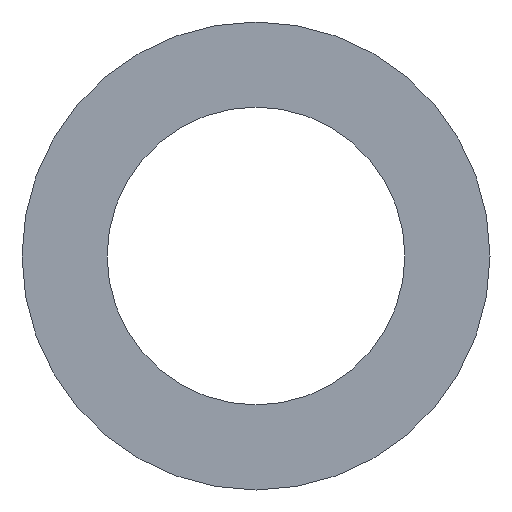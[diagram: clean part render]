
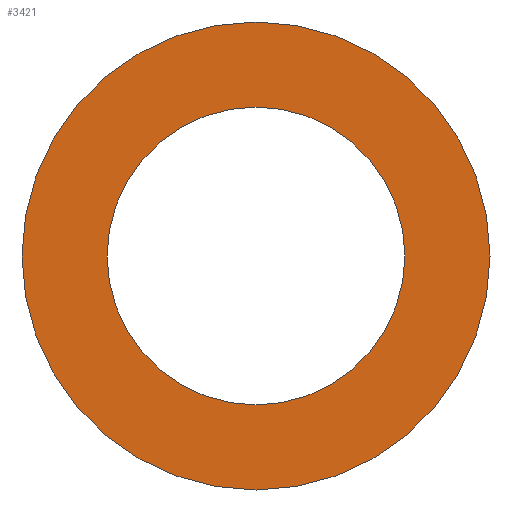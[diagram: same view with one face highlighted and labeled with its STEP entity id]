
A CAD part, front view. The second image highlights one B-rep face of the part: STEP entity #3421.
In plain terms, the highlighted planar face has unit normal (0, -1, 0).
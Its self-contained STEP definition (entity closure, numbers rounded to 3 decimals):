
#21 = CARTESIAN_POINT ( 'NONE',  ( 0., -20., -55. ) ) ;
#29 = CARTESIAN_POINT ( 'NONE',  ( 0., -20., -35. ) ) ;
#39 = AXIS2_PLACEMENT_3D ( 'NONE', #2443, #2428, #3003 ) ;
#129 = AXIS2_PLACEMENT_3D ( 'NONE', #3361, #217, #2225 ) ;
#150 = AXIS2_PLACEMENT_3D ( 'NONE', #518, #3092, #3657 ) ;
#217 = DIRECTION ( 'NONE',  ( 0., -1., 0. ) ) ;
#259 = DIRECTION ( 'NONE',  ( 0., 1., 0. ) ) ;
#269 = CARTESIAN_POINT ( 'NONE',  ( 0., -20., 35. ) ) ;
#293 = DIRECTION ( 'NONE',  ( 0., -1., 0. ) ) ;
#468 = EDGE_CURVE ( 'NONE', #1186, #2221, #3610, .T. ) ;
#518 = CARTESIAN_POINT ( 'NONE',  ( 0., -20., 0. ) ) ;
#573 = DIRECTION ( 'NONE',  ( 0., 0., -1. ) ) ;
#574 = CARTESIAN_POINT ( 'NONE',  ( 0., -20., 35. ) ) ;
#604 = CARTESIAN_POINT ( 'NONE',  ( 0., -20., 0. ) ) ;
#685 = AXIS2_PLACEMENT_3D ( 'NONE', #604, #293, #573 ) ;
#899 = ORIENTED_EDGE ( 'NONE', *, *, #2725, .T. ) ;
#933 = AXIS2_PLACEMENT_3D ( 'NONE', #574, #259, #2866 ) ;
#1168 = EDGE_LOOP ( 'NONE', ( #1799, #3298 ) ) ;
#1186 = VERTEX_POINT ( 'NONE', #21 ) ;
#1483 = EDGE_LOOP ( 'NONE', ( #3597, #899 ) ) ;
#1606 = EDGE_CURVE ( 'NONE', #3039, #2403, #2039, .T. ) ;
#1698 = FACE_BOUND ( 'NONE', #1168, .T. ) ;
#1799 = ORIENTED_EDGE ( 'NONE', *, *, #1606, .F. ) ;
#1936 = CIRCLE ( 'NONE', #129, 55. ) ;
#2035 = PLANE ( 'NONE',  #933 ) ;
#2039 = CIRCLE ( 'NONE', #150, 35. ) ;
#2062 = EDGE_CURVE ( 'NONE', #2403, #3039, #3419, .T. ) ;
#2086 = CARTESIAN_POINT ( 'NONE',  ( 0., -20., 55. ) ) ;
#2221 = VERTEX_POINT ( 'NONE', #2086 ) ;
#2225 = DIRECTION ( 'NONE',  ( 0., 0., -1. ) ) ;
#2403 = VERTEX_POINT ( 'NONE', #269 ) ;
#2428 = DIRECTION ( 'NONE',  ( 0., -1., 0. ) ) ;
#2443 = CARTESIAN_POINT ( 'NONE',  ( 0., -20., 0. ) ) ;
#2725 = EDGE_CURVE ( 'NONE', #2221, #1186, #1936, .T. ) ;
#2866 = DIRECTION ( 'NONE',  ( 0., 0., 1. ) ) ;
#3003 = DIRECTION ( 'NONE',  ( 0., 0., -1. ) ) ;
#3039 = VERTEX_POINT ( 'NONE', #29 ) ;
#3092 = DIRECTION ( 'NONE',  ( 0., -1., 0. ) ) ;
#3278 = FACE_OUTER_BOUND ( 'NONE', #1483, .T. ) ;
#3298 = ORIENTED_EDGE ( 'NONE', *, *, #2062, .F. ) ;
#3361 = CARTESIAN_POINT ( 'NONE',  ( 0., -20., 0. ) ) ;
#3419 = CIRCLE ( 'NONE', #685, 35. ) ;
#3421 = ADVANCED_FACE ( 'NONE', ( #1698, #3278 ), #2035, .F. ) ;
#3597 = ORIENTED_EDGE ( 'NONE', *, *, #468, .T. ) ;
#3610 = CIRCLE ( 'NONE', #39, 55. ) ;
#3657 = DIRECTION ( 'NONE',  ( 0., 0., -1. ) ) ;
